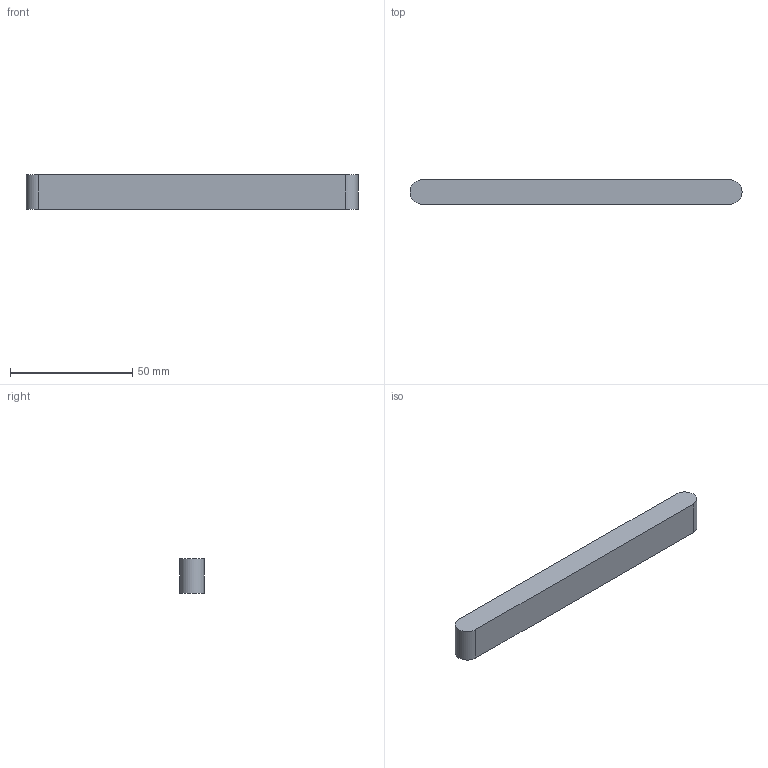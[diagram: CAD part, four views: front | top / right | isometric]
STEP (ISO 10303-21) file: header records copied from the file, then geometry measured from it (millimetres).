
FILE_DESCRIPTION(('Open CASCADE Model'),'2;1');
FILE_NAME('Open CASCADE Shape Model','2026-10-21T18:54:03',('Author'),( 'Open CASCADE'),'Open CASCADE STEP processor 8.0','build123d', 'Unknown');
FILE_SCHEMA(('AUTOMOTIVE_DESIGN { 1 0 10303 214 1 1 1 1 }'));
Length unit declared in the file: millimetre
Products named in the file (1): COMPOUND
Bounding box: 135.85 x 10 x 14.3 mm (x, y, z)
Volume: 19119.7 mm3; surface area: 6722.6 mm2
Topology: 1 solids, 1 shells, 6 faces, 12 edges, 8 vertices
Faces by surface type: plane 4, cylinder 2
Entity records: 338 total; most frequent: CARTESIAN_POINT 75, DIRECTION 50, LINE 28, VECTOR 28, ORIENTED_EDGE 24, PCURVE 24, DEFINITIONAL_REPRESENTATION 24, EDGE_CURVE 12
